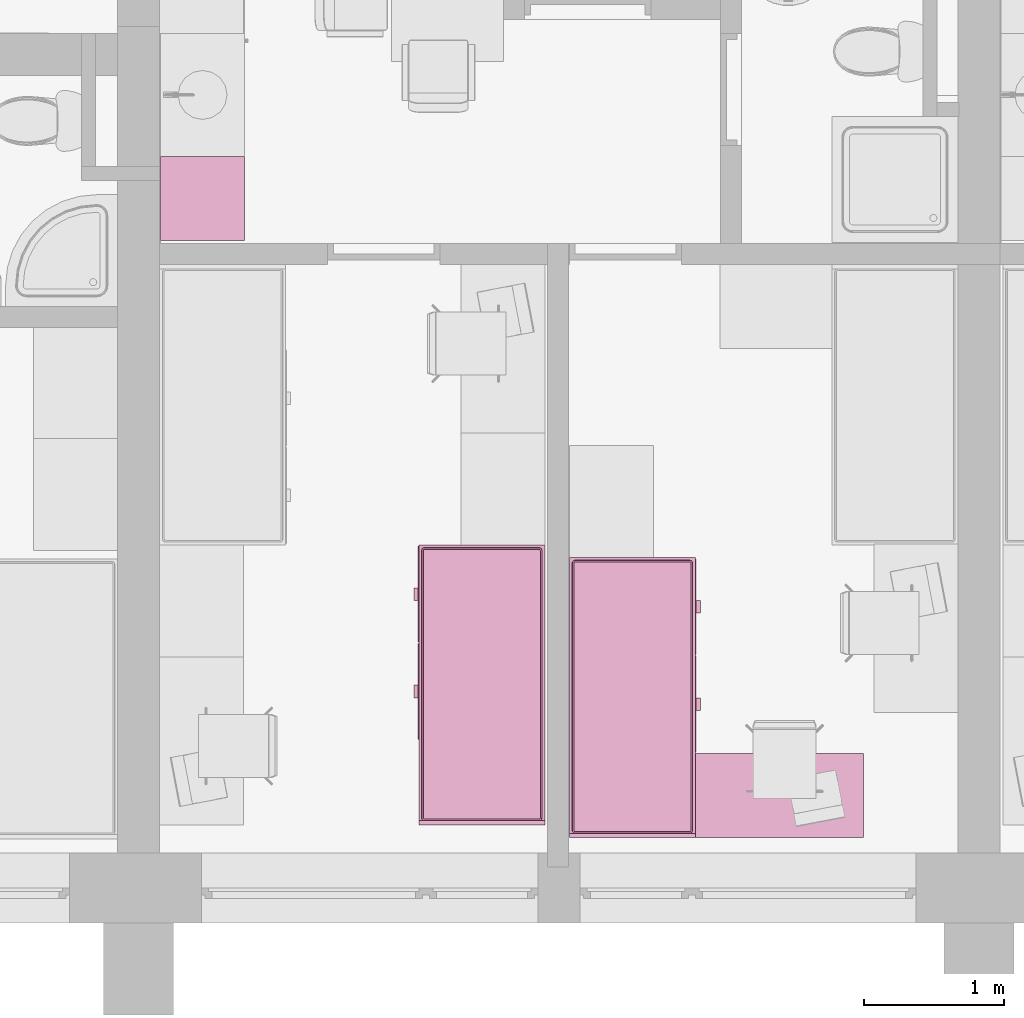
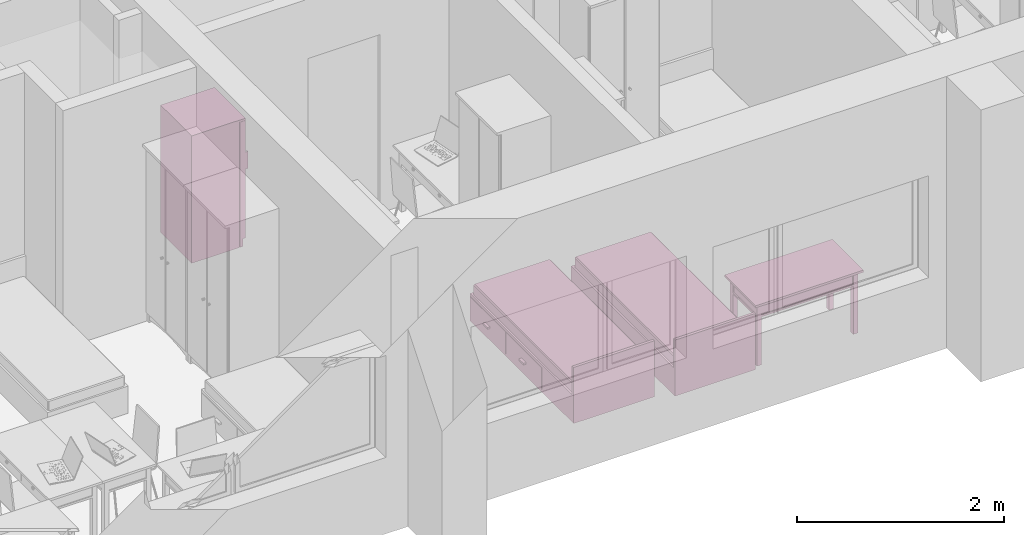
# One storey, part 58 of 165: 4 furnishings.
"""IFC2X3 building model written with IfcOpenShell, lengths in millimetres."""

from ifc_helpers import new_model, entity, si_unit, converted_unit, money_unit, direction, frame, origin_with_axes, place, context, subcontext, project, spatial, open_shell, faceted_brep, surface_model, source, transform, mapped, material, material_list, type_object, element, save


model = new_model("IFC2X3")

# Units and contexts
model_context = context("Model", 3, precision=1e-05, world=origin_with_axes(), true_north=direction((0.0, 1.0)))
body_context = subcontext(model_context, "Body", "Model", "MODEL_VIEW")
ifc_project = project(units=[si_unit("LENGTHUNIT", "METRE", prefix="MILLI"), si_unit("AREAUNIT", "SQUARE_METRE"), si_unit("VOLUMEUNIT", "CUBIC_METRE"), converted_unit("PLANEANGLEUNIT", "DEGREE", entity("IfcPlaneAngleMeasure", 0.0174532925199), si_unit("PLANEANGLEUNIT", "RADIAN"), dimensions=[0, 0, 0, 0, 0, 0, 0]), si_unit("SOLIDANGLEUNIT", "STERADIAN"), money_unit("USD"), converted_unit("TIMEUNIT", "Year", entity("IfcTimeMeasure", 31556926.0), si_unit("TIMEUNIT", "SECOND"), dimensions=[0, 0, 0, 0, 0, 0, 0]), si_unit("MASSUNIT", "GRAM"), si_unit("THERMODYNAMICTEMPERATUREUNIT", "DEGREE_CELSIUS"), si_unit("LUMINOUSINTENSITYUNIT", "LUMEN")], contexts=[model_context])

# Site, building, storey
site_placement = place(None, origin_with_axes())
site = spatial("IfcSite", under=ifc_project, at=site_placement, Name="Site", CompositionType="ELEMENT")
building_placement = place(site_placement, origin_with_axes())
building = spatial("IfcBuilding", under=site, at=building_placement, Name="Building", CompositionType="ELEMENT")
storey_placement = place(building_placement, frame((0.0, 0.0, 6300.0), z_axis=(0.0, 0.0, 1.0), x_axis=(1.0, 0.0, 0.0)))
storey = spatial("IfcBuildingStorey", under=building, at=storey_placement, Name="4KORRUS", CompositionType="ELEMENT", Elevation=6300.0)

# Furnishings
ifc_material = material(Name="Background")
ifc_material_list = material_list([ifc_material])
furnishing_element_type_1 = type_object("IfcFurnishingElementType", Name="Bed 19")
shared_shape_1 = source(origin_with_axes(), body_context, "Body", "Brep", [
    faceted_brep([(900.0, 1970.0, 0.0), (0.0, 1970.0, 0.0), (0.0, 2000.0, 0.0), (900.0, 2000.0, 0.0), (900.0, 1970.0, 660.0), (0.0, 1970.0, 660.0), (0.0, 2000.0, 660.0), (900.0, 2000.0, 660.0)], [[[0, 1, 2, 3]], [[1, 0, 4, 5]], [[2, 1, 5, 6]], [[3, 2, 6, 7]], [[0, 3, 7, 4]], [[5, 4, 7, 6]]]),
    faceted_brep([(900.0, 0.0, 0.0), (0.0, 0.0, 0.0), (0.0, 1970.0, 0.0), (900.0, 1970.0, 0.0), (900.0, 0.0, 320.0), (0.0, 0.0, 320.0), (0.0, 1970.0, 320.0), (900.0, 1970.0, 320.0)], [[[0, 1, 2, 3]], [[1, 0, 4, 5]], [[2, 1, 5, 6]], [[3, 2, 6, 7]], [[0, 3, 7, 4]], [[5, 4, 7, 6]]]),
    faceted_brep([(905.0, 10.0, 30.0), (900.0, 10.0, 30.0), (900.0, 695.0, 30.0), (905.0, 695.0, 30.0), (905.0, 10.0, 290.0), (900.0, 10.0, 290.0), (900.0, 695.0, 290.0), (905.0, 695.0, 290.0)], [[[0, 1, 2, 3]], [[1, 0, 4, 5]], [[2, 1, 5, 6]], [[3, 2, 6, 7]], [[0, 3, 7, 4]], [[5, 4, 7, 6]]]),
    faceted_brep([(935.0, 307.5, 150.0), (905.0, 307.5, 150.0), (905.0, 397.5, 150.0), (935.0, 397.5, 150.0), (935.0, 307.5, 170.0), (905.0, 307.5, 170.0), (905.0, 397.5, 170.0), (935.0, 397.5, 170.0)], [[[0, 1, 2, 3]], [[1, 0, 4, 5]], [[2, 1, 5, 6]], [[3, 2, 6, 7]], [[0, 3, 7, 4]], [[5, 4, 7, 6]]]),
    faceted_brep([(905.0, 705.0, 30.0), (900.0, 705.0, 30.0), (900.0, 1390.0, 30.0), (905.0, 1390.0, 30.0), (905.0, 705.0, 290.0), (900.0, 705.0, 290.0), (900.0, 1390.0, 290.0), (905.0, 1390.0, 290.0)], [[[0, 1, 2, 3]], [[1, 0, 4, 5]], [[2, 1, 5, 6]], [[3, 2, 6, 7]], [[0, 3, 7, 4]], [[5, 4, 7, 6]]]),
    faceted_brep([(935.0, 1002.5, 150.0), (905.0, 1002.5, 150.0), (905.0, 1092.5, 150.0), (935.0, 1092.5, 150.0), (935.0, 1002.5, 170.0), (905.0, 1002.5, 170.0), (905.0, 1092.5, 170.0), (935.0, 1092.5, 170.0)], [[[0, 1, 2, 3]], [[1, 0, 4, 5]], [[2, 1, 5, 6]], [[3, 2, 6, 7]], [[0, 3, 7, 4]], [[5, 4, 7, 6]]]),
    faceted_brep([(20.0, 40.0, 350.0), (20.0, 1950.0, 350.0), (21.522, 1957.654, 350.0), (25.858, 1964.142, 350.0), (32.346, 1968.478, 350.0), (40.0, 1970.0, 350.0), (860.0, 1970.0, 350.0), (867.654, 1968.478, 350.0), (874.142, 1964.142, 350.0), (878.478, 1957.654, 350.0), (880.0, 1950.0, 350.0), (880.0, 40.0, 350.0), (878.478, 32.346, 350.0), (874.142, 25.858, 350.0), (867.654, 21.522, 350.0), (860.0, 20.0, 350.0), (40.0, 20.0, 350.0), (32.346, 21.522, 350.0), (25.858, 25.858, 350.0), (21.522, 32.346, 350.0), (20.0, 40.0, 420.0), (20.0, 1950.0, 420.0), (21.522, 1957.654, 420.0), (25.858, 1964.142, 420.0), (32.346, 1968.478, 420.0), (40.0, 1970.0, 420.0), (860.0, 1970.0, 420.0), (867.654, 1968.478, 420.0), (874.142, 1964.142, 420.0), (878.478, 1957.654, 420.0), (880.0, 1950.0, 420.0), (880.0, 40.0, 420.0), (878.478, 32.346, 420.0), (874.142, 25.858, 420.0), (867.654, 21.522, 420.0), (860.0, 20.0, 420.0), (40.0, 20.0, 420.0), (32.346, 21.522, 420.0), (25.858, 25.858, 420.0), (21.522, 32.346, 420.0), (21.522, 40.15, 427.654), (21.522, 1949.85, 427.654), (22.956, 1957.06, 427.654), (26.955, 1963.045, 427.654), (32.94, 1967.044, 427.654), (40.15, 1968.478, 427.654), (859.85, 1968.478, 427.654), (867.06, 1967.044, 427.654), (873.045, 1963.045, 427.654), (877.044, 1957.06, 427.654), (878.478, 1949.85, 427.654), (878.478, 40.15, 427.654), (877.044, 32.94, 427.654), (873.045, 26.955, 427.654), (867.06, 22.956, 427.654), (859.85, 21.522, 427.654), (40.15, 21.522, 427.654), (32.94, 22.956, 427.654), (26.955, 26.955, 427.654), (22.956, 32.94, 427.654), (32.346, 41.216, 438.478), (32.346, 1948.784, 438.478), (33.152, 1952.836, 438.478), (34.759, 1955.241, 438.478), (37.164, 1956.848, 438.478), (41.216, 1957.654, 438.478), (858.784, 1957.654, 438.478), (862.836, 1956.848, 438.478), (865.241, 1955.241, 438.478), (866.848, 1952.836, 438.478), (867.654, 1948.784, 438.478), (867.654, 41.216, 438.478), (866.848, 37.164, 438.478), (865.241, 34.759, 438.478), (862.836, 33.152, 438.478), (858.784, 32.346, 438.478), (41.216, 32.346, 438.478), (37.164, 33.152, 438.478), (34.759, 34.759, 438.478), (33.152, 37.164, 438.478), (40.0, 41.97, 440.0), (40.0, 1948.03, 440.0), (40.327, 1949.673, 440.0), (40.0, 1950.0, 439.924), (41.97, 1950.0, 440.0), (858.03, 1950.0, 440.0), (859.673, 1949.673, 440.0), (860.0, 1950.0, 439.924), (860.0, 1948.03, 440.0), (860.0, 41.97, 440.0), (859.673, 40.327, 440.0), (860.0, 40.0, 439.924), (858.03, 40.0, 440.0), (41.97, 40.0, 440.0), (40.327, 40.327, 440.0), (40.0, 40.0, 439.924)], [[[0, 1, 2, 3, 4, 5, 6, 7, 8, 9, 10, 11, 12, 13, 14, 15, 16, 17, 18, 19]], [[1, 0, 20, 21]], [[2, 1, 21, 22]], [[3, 2, 22, 23]], [[4, 3, 23, 24]], [[5, 4, 24, 25]], [[6, 5, 25, 26]], [[7, 6, 26, 27]], [[8, 7, 27, 28]], [[9, 8, 28, 29]], [[10, 9, 29, 30]], [[11, 10, 30, 31]], [[12, 11, 31, 32]], [[13, 12, 32, 33]], [[14, 13, 33, 34]], [[15, 14, 34, 35]], [[16, 15, 35, 36]], [[17, 16, 36, 37]], [[18, 17, 37, 38]], [[19, 18, 38, 39]], [[0, 19, 39, 20]], [[21, 20, 40, 41]], [[22, 21, 41, 42]], [[23, 22, 42, 43]], [[24, 23, 43, 44]], [[25, 24, 44, 45]], [[26, 25, 45, 46]], [[27, 26, 46, 47]], [[28, 27, 47, 48]], [[29, 28, 48, 49]], [[30, 29, 49, 50]], [[31, 30, 50, 51]], [[32, 31, 51, 52]], [[33, 32, 52, 53]], [[34, 33, 53, 54]], [[35, 34, 54, 55]], [[36, 35, 55, 56]], [[37, 36, 56, 57]], [[38, 37, 57, 58]], [[39, 38, 58, 59]], [[20, 39, 59, 40]], [[41, 40, 60, 61]], [[42, 41, 61, 62]], [[43, 42, 62, 63]], [[44, 43, 63, 64]], [[45, 44, 64, 65]], [[46, 45, 65, 66]], [[47, 46, 66, 67]], [[48, 47, 67, 68]], [[49, 48, 68, 69]], [[50, 49, 69, 70]], [[51, 50, 70, 71]], [[52, 51, 71, 72]], [[53, 52, 72, 73]], [[54, 53, 73, 74]], [[55, 54, 74, 75]], [[56, 55, 75, 76]], [[57, 56, 76, 77]], [[58, 57, 77, 78]], [[59, 58, 78, 79]], [[40, 59, 79, 60]], [[61, 60, 80, 81]], [[62, 61, 81, 82, 83]], [[63, 62, 83]], [[64, 63, 83]], [[65, 64, 83, 82, 84]], [[66, 65, 84, 85]], [[67, 66, 85, 86, 87]], [[68, 67, 87]], [[69, 68, 87]], [[70, 69, 87, 86, 88]], [[71, 70, 88, 89]], [[72, 71, 89, 90, 91]], [[73, 72, 91]], [[74, 73, 91]], [[75, 74, 91, 90, 92]], [[76, 75, 92, 93]], [[77, 76, 93, 94, 95]], [[78, 77, 95]], [[79, 78, 95]], [[60, 79, 95, 94, 80]], [[81, 80, 94, 93, 92, 90, 89, 88, 86, 85, 84, 82]]]),
    faceted_brep([(20.0, 40.0, 350.0), (21.522, 32.346, 350.0), (25.858, 25.858, 350.0), (32.346, 21.522, 350.0), (40.0, 20.0, 350.0), (860.0, 20.0, 350.0), (867.654, 21.522, 350.0), (874.142, 25.858, 350.0), (878.478, 32.346, 350.0), (880.0, 40.0, 350.0), (880.0, 1950.0, 350.0), (878.478, 1957.654, 350.0), (874.142, 1964.142, 350.0), (867.654, 1968.478, 350.0), (860.0, 1970.0, 350.0), (40.0, 1970.0, 350.0), (32.346, 1968.478, 350.0), (25.858, 1964.142, 350.0), (21.522, 1957.654, 350.0), (20.0, 1950.0, 350.0), (20.0, 40.0, 320.0), (21.522, 32.346, 320.0), (25.858, 25.858, 320.0), (32.346, 21.522, 320.0), (40.0, 20.0, 320.0), (860.0, 20.0, 320.0), (867.654, 21.522, 320.0), (874.142, 25.858, 320.0), (878.478, 32.346, 320.0), (880.0, 40.0, 320.0), (880.0, 1950.0, 320.0), (878.478, 1957.654, 320.0), (874.142, 1964.142, 320.0), (867.654, 1968.478, 320.0), (860.0, 1970.0, 320.0), (40.0, 1970.0, 320.0), (32.346, 1968.478, 320.0), (25.858, 1964.142, 320.0), (21.522, 1957.654, 320.0), (20.0, 1950.0, 320.0)], [[[0, 1, 2, 3, 4, 5, 6, 7, 8, 9, 10, 11, 12, 13, 14, 15, 16, 17, 18, 19]], [[0, 20, 21, 1]], [[1, 21, 22, 2]], [[2, 22, 23, 3]], [[3, 23, 24, 4]], [[4, 24, 25, 5]], [[5, 25, 26, 6]], [[6, 26, 27, 7]], [[7, 27, 28, 8]], [[8, 28, 29, 9]], [[9, 29, 30, 10]], [[10, 30, 31, 11]], [[11, 31, 32, 12]], [[12, 32, 33, 13]], [[13, 33, 34, 14]], [[14, 34, 35, 15]], [[15, 35, 36, 16]], [[16, 36, 37, 17]], [[17, 37, 38, 18]], [[18, 38, 39, 19]], [[19, 39, 20, 0]], [[20, 39, 38, 37, 36, 35, 34, 33, 32, 31, 30, 29, 28, 27, 26, 25, 24, 23, 22, 21]]]),
])
furnishing_1_placement = place(storey_placement, frame((-45240.2967033, -17439.2398994, 0.0), z_axis=(0.0, 0.0, 1.0), x_axis=(-1.0, 0.0, 0.0)))
element("IfcFurnishingElement", 1, at=furnishing_1_placement, inside=storey, type_object=furnishing_element_type_1, material=ifc_material_list, Name="FU - 013", context=body_context, shape_type="MappedRepresentation", body=[
    mapped(shared_shape_1, transform((0.0, 0.0, 0.0))),
])
furnishing_element_type_2 = type_object("IfcFurnishingElementType", Name="Rectangular Table 01 19")
shared_shape_2 = source(origin_with_axes(), body_context, "Body", "Brep", [
    faceted_brep([(90.0, 40.0, 0.0), (40.0, 40.0, 0.0), (40.0, 90.0, 0.0), (90.0, 90.0, 0.0), (90.0, 40.0, 725.0), (40.0, 40.0, 725.0), (40.0, 90.0, 725.0), (90.0, 90.0, 725.0)], [[[0, 1, 2, 3]], [[1, 0, 4, 5]], [[2, 1, 5, 6]], [[3, 2, 6, 7]], [[0, 3, 7, 4]], [[5, 4, 7, 6]]]),
    faceted_brep([(1160.0, 40.0, 0.0), (1110.0, 40.0, 0.0), (1110.0, 90.0, 0.0), (1160.0, 90.0, 0.0), (1160.0, 40.0, 725.0), (1110.0, 40.0, 725.0), (1110.0, 90.0, 725.0), (1160.0, 90.0, 725.0)], [[[0, 1, 2, 3]], [[1, 0, 4, 5]], [[2, 1, 5, 6]], [[3, 2, 6, 7]], [[0, 3, 7, 4]], [[5, 4, 7, 6]]]),
    faceted_brep([(90.0, 510.0, 0.0), (40.0, 510.0, 0.0), (40.0, 560.0, 0.0), (90.0, 560.0, 0.0), (90.0, 510.0, 725.0), (40.0, 510.0, 725.0), (40.0, 560.0, 725.0), (90.0, 560.0, 725.0)], [[[0, 1, 2, 3]], [[1, 0, 4, 5]], [[2, 1, 5, 6]], [[3, 2, 6, 7]], [[0, 3, 7, 4]], [[5, 4, 7, 6]]]),
    faceted_brep([(1160.0, 510.0, 0.0), (1110.0, 510.0, 0.0), (1110.0, 560.0, 0.0), (1160.0, 560.0, 0.0), (1160.0, 510.0, 725.0), (1110.0, 510.0, 725.0), (1110.0, 560.0, 725.0), (1160.0, 560.0, 725.0)], [[[0, 1, 2, 3]], [[1, 0, 4, 5]], [[2, 1, 5, 6]], [[3, 2, 6, 7]], [[0, 3, 7, 4]], [[5, 4, 7, 6]]]),
    faceted_brep([(1160.0, 40.0, 565.0), (40.0, 40.0, 565.0), (40.0, 560.0, 565.0), (1160.0, 560.0, 565.0), (1160.0, 40.0, 585.0), (40.0, 40.0, 585.0), (40.0, 560.0, 585.0), (1160.0, 560.0, 585.0)], [[[0, 1, 2, 3]], [[1, 0, 4, 5]], [[2, 1, 5, 6]], [[3, 2, 6, 7]], [[0, 3, 7, 4]], [[5, 4, 7, 6]]]),
    faceted_brep([(1110.0, 52.5, 585.0), (90.0, 52.5, 585.0), (90.0, 77.5, 585.0), (1110.0, 77.5, 585.0), (1110.0, 52.5, 745.0), (90.0, 52.5, 745.0), (90.0, 77.5, 745.0), (1110.0, 77.5, 745.0)], [[[0, 1, 2, 3]], [[1, 0, 4, 5]], [[2, 1, 5, 6]], [[3, 2, 6, 7]], [[0, 3, 7, 4]], [[5, 4, 7, 6]]]),
    faceted_brep([(77.5, 90.0, 585.0), (52.5, 90.0, 585.0), (52.5, 510.0, 585.0), (77.5, 510.0, 585.0), (77.5, 90.0, 745.0), (52.5, 90.0, 745.0), (52.5, 510.0, 745.0), (77.5, 510.0, 745.0)], [[[0, 1, 2, 3]], [[1, 0, 4, 5]], [[2, 1, 5, 6]], [[3, 2, 6, 7]], [[0, 3, 7, 4]], [[5, 4, 7, 6]]]),
    faceted_brep([(90.0, 547.5, 585.0), (1110.0, 547.5, 585.0), (1110.0, 522.5, 585.0), (90.0, 522.5, 585.0), (90.0, 547.5, 745.0), (1110.0, 547.5, 745.0), (1110.0, 522.5, 745.0), (90.0, 522.5, 745.0)], [[[0, 1, 2, 3]], [[1, 0, 4, 5]], [[2, 1, 5, 6]], [[3, 2, 6, 7]], [[0, 3, 7, 4]], [[5, 4, 7, 6]]]),
    faceted_brep([(1122.5, 510.0, 585.0), (1147.5, 510.0, 585.0), (1147.5, 90.0, 585.0), (1122.5, 90.0, 585.0), (1122.5, 510.0, 745.0), (1147.5, 510.0, 745.0), (1147.5, 90.0, 745.0), (1122.5, 90.0, 745.0)], [[[0, 1, 2, 3]], [[1, 0, 4, 5]], [[2, 1, 5, 6]], [[3, 2, 6, 7]], [[0, 3, 7, 4]], [[5, 4, 7, 6]]]),
    faceted_brep([(597.5, 40.0, 585.0), (95.0, 40.0, 585.0), (95.0, 60.0, 585.0), (597.5, 60.0, 585.0), (597.5, 40.0, 745.0), (95.0, 40.0, 745.0), (95.0, 60.0, 745.0), (597.5, 60.0, 745.0)], [[[0, 1, 2, 3]], [[1, 0, 4, 5]], [[2, 1, 5, 6]], [[3, 2, 6, 7]], [[0, 3, 7, 4]], [[5, 4, 7, 6]]]),
    faceted_brep([(1105.0, 40.0, 585.0), (602.5, 40.0, 585.0), (602.5, 60.0, 585.0), (1105.0, 60.0, 585.0), (1105.0, 40.0, 745.0), (602.5, 40.0, 745.0), (602.5, 60.0, 745.0), (1105.0, 60.0, 745.0)], [[[0, 1, 2, 3]], [[1, 0, 4, 5]], [[2, 1, 5, 6]], [[3, 2, 6, 7]], [[0, 3, 7, 4]], [[5, 4, 7, 6]]]),
    faceted_brep([(354.91, 40.0, 660.0), (351.25, 40.0, 656.34), (346.25, 40.0, 655.0), (341.25, 40.0, 656.34), (337.59, 40.0, 660.0), (336.25, 40.0, 665.0), (337.59, 40.0, 670.0), (341.25, 40.0, 673.66), (346.25, 40.0, 675.0), (351.25, 40.0, 673.66), (354.91, 40.0, 670.0), (356.25, 40.0, 665.0), (354.91, 25.0, 660.0), (351.25, 25.0, 656.34), (346.25, 25.0, 655.0), (341.25, 25.0, 656.34), (337.59, 25.0, 660.0), (336.25, 25.0, 665.0), (337.59, 25.0, 670.0), (341.25, 25.0, 673.66), (346.25, 25.0, 675.0), (351.25, 25.0, 673.66), (354.91, 25.0, 670.0), (356.25, 25.0, 665.0)], [[[0, 1, 2, 3, 4, 5, 6, 7, 8, 9, 10, 11]], [[1, 0, 12, 13]], [[2, 1, 13, 14]], [[3, 2, 14, 15]], [[4, 3, 15, 16]], [[5, 4, 16, 17]], [[6, 5, 17, 18]], [[7, 6, 18, 19]], [[8, 7, 19, 20]], [[9, 8, 20, 21]], [[10, 9, 21, 22]], [[11, 10, 22, 23]], [[0, 11, 23, 12]], [[12, 23, 22, 21, 20, 19, 18, 17, 16, 15, 14, 13]]]),
    faceted_brep([(356.25, 12.01, 665.0), (346.25, 10.0, 665.0), (354.91, 12.01, 660.0), (354.91, 12.01, 670.0), (351.25, 12.01, 656.34), (363.571, 17.5, 665.0), (361.25, 17.5, 656.34), (351.25, 12.01, 673.66), (361.25, 17.5, 673.66), (346.25, 12.01, 655.0), (354.91, 17.5, 650.0), (366.25, 25.0, 665.0), (363.571, 25.0, 655.0), (346.25, 12.01, 675.0), (354.91, 17.5, 680.0), (363.571, 25.0, 675.0), (341.25, 12.01, 656.34), (346.25, 17.5, 647.679), (356.25, 25.0, 647.679), (346.25, 25.0, 645.0), (336.25, 25.0, 647.679), (328.929, 25.0, 655.0), (326.25, 25.0, 665.0), (328.929, 25.0, 675.0), (336.25, 25.0, 682.321), (346.25, 25.0, 685.0), (356.25, 25.0, 682.321), (341.25, 12.01, 673.66), (346.25, 17.5, 682.321), (337.59, 12.01, 660.0), (337.59, 17.5, 650.0), (331.25, 17.5, 656.34), (328.929, 17.5, 665.0), (331.25, 17.5, 673.66), (337.59, 17.5, 680.0), (337.59, 12.01, 670.0), (336.25, 12.01, 665.0)], [[[0, 1, 2]], [[3, 1, 0]], [[2, 1, 4]], [[5, 0, 2, 6]], [[7, 1, 3]], [[8, 3, 0, 5]], [[4, 1, 9]], [[6, 2, 4, 10]], [[11, 5, 6, 12]], [[13, 1, 7]], [[14, 7, 3, 8]], [[15, 8, 5, 11]], [[9, 1, 16]], [[10, 4, 9, 17]], [[12, 6, 10, 18]], [[12, 18, 19, 20, 21, 22, 23, 24, 25, 26, 15, 11]], [[27, 1, 13]], [[28, 13, 7, 14]], [[26, 14, 8, 15]], [[16, 1, 29]], [[17, 9, 16, 30]], [[18, 10, 17, 19]], [[19, 17, 30, 20]], [[20, 30, 31, 21]], [[21, 31, 32, 22]], [[22, 32, 33, 23]], [[23, 33, 34, 24]], [[24, 34, 28, 25]], [[25, 28, 14, 26]], [[35, 1, 27]], [[34, 27, 13, 28]], [[29, 1, 36]], [[30, 16, 29, 31]], [[31, 29, 36, 32]], [[32, 36, 35, 33]], [[33, 35, 27, 34]], [[36, 1, 35]]]),
    faceted_brep([(862.41, 40.0, 660.0), (858.75, 40.0, 656.34), (853.75, 40.0, 655.0), (848.75, 40.0, 656.34), (845.09, 40.0, 660.0), (843.75, 40.0, 665.0), (845.09, 40.0, 670.0), (848.75, 40.0, 673.66), (853.75, 40.0, 675.0), (858.75, 40.0, 673.66), (862.41, 40.0, 670.0), (863.75, 40.0, 665.0), (862.41, 25.0, 660.0), (858.75, 25.0, 656.34), (853.75, 25.0, 655.0), (848.75, 25.0, 656.34), (845.09, 25.0, 660.0), (843.75, 25.0, 665.0), (845.09, 25.0, 670.0), (848.75, 25.0, 673.66), (853.75, 25.0, 675.0), (858.75, 25.0, 673.66), (862.41, 25.0, 670.0), (863.75, 25.0, 665.0)], [[[0, 1, 2, 3, 4, 5, 6, 7, 8, 9, 10, 11]], [[1, 0, 12, 13]], [[2, 1, 13, 14]], [[3, 2, 14, 15]], [[4, 3, 15, 16]], [[5, 4, 16, 17]], [[6, 5, 17, 18]], [[7, 6, 18, 19]], [[8, 7, 19, 20]], [[9, 8, 20, 21]], [[10, 9, 21, 22]], [[11, 10, 22, 23]], [[0, 11, 23, 12]], [[12, 23, 22, 21, 20, 19, 18, 17, 16, 15, 14, 13]]]),
    faceted_brep([(863.75, 12.01, 665.0), (853.75, 10.0, 665.0), (862.41, 12.01, 660.0), (862.41, 12.01, 670.0), (858.75, 12.01, 656.34), (871.071, 17.5, 665.0), (868.75, 17.5, 656.34), (858.75, 12.01, 673.66), (868.75, 17.5, 673.66), (853.75, 12.01, 655.0), (862.41, 17.5, 650.0), (873.75, 25.0, 665.0), (871.071, 25.0, 655.0), (853.75, 12.01, 675.0), (862.41, 17.5, 680.0), (871.071, 25.0, 675.0), (848.75, 12.01, 656.34), (853.75, 17.5, 647.679), (863.75, 25.0, 647.679), (853.75, 25.0, 645.0), (843.75, 25.0, 647.679), (836.429, 25.0, 655.0), (833.75, 25.0, 665.0), (836.429, 25.0, 675.0), (843.75, 25.0, 682.321), (853.75, 25.0, 685.0), (863.75, 25.0, 682.321), (848.75, 12.01, 673.66), (853.75, 17.5, 682.321), (845.09, 12.01, 660.0), (845.09, 17.5, 650.0), (838.75, 17.5, 656.34), (836.429, 17.5, 665.0), (838.75, 17.5, 673.66), (845.09, 17.5, 680.0), (845.09, 12.01, 670.0), (843.75, 12.01, 665.0)], [[[0, 1, 2]], [[3, 1, 0]], [[2, 1, 4]], [[5, 0, 2, 6]], [[7, 1, 3]], [[8, 3, 0, 5]], [[4, 1, 9]], [[6, 2, 4, 10]], [[11, 5, 6, 12]], [[13, 1, 7]], [[14, 7, 3, 8]], [[15, 8, 5, 11]], [[9, 1, 16]], [[10, 4, 9, 17]], [[12, 6, 10, 18]], [[12, 18, 19, 20, 21, 22, 23, 24, 25, 26, 15, 11]], [[27, 1, 13]], [[28, 13, 7, 14]], [[26, 14, 8, 15]], [[16, 1, 29]], [[17, 9, 16, 30]], [[18, 10, 17, 19]], [[19, 17, 30, 20]], [[20, 30, 31, 21]], [[21, 31, 32, 22]], [[22, 32, 33, 23]], [[23, 33, 34, 24]], [[24, 34, 28, 25]], [[25, 28, 14, 26]], [[35, 1, 27]], [[34, 27, 13, 28]], [[29, 1, 36]], [[30, 16, 29, 31]], [[31, 29, 36, 32]], [[32, 36, 35, 33]], [[33, 35, 27, 34]], [[36, 1, 35]]]),
    faceted_brep([(1200.0, 0.0, 725.0), (0.0, 0.0, 725.0), (0.0, 600.0, 725.0), (1200.0, 600.0, 725.0), (1200.0, 0.0, 750.0), (0.0, 0.0, 750.0), (0.0, 600.0, 750.0), (1200.0, 600.0, 750.0)], [[[0, 1, 2, 3]], [[1, 0, 4, 5]], [[2, 1, 5, 6]], [[3, 2, 6, 7]], [[0, 3, 7, 4]], [[5, 4, 7, 6]]]),
])
furnishing_2_placement = place(storey_placement, frame((-42965.2967033, -18929.2398994, 0.0), z_axis=(0.0, 0.0, 1.0), x_axis=(-1.0, 0.0, 0.0)))
element("IfcFurnishingElement", 2, at=furnishing_2_placement, inside=storey, type_object=furnishing_element_type_2, material=ifc_material_list, Name="FU - 011", context=body_context, shape_type="MappedRepresentation", body=[
    mapped(shared_shape_2, transform((0.0, 0.0, 0.0))),
])
shared_shape_3 = source(origin_with_axes(), body_context, "Body", "Brep", [
    faceted_brep([(-900.0, 1970.0, 0.0), (-900.0, 2000.0, 0.0), (0.0, 2000.0, 0.0), (0.0, 1970.0, 0.0), (-900.0, 1970.0, 660.0), (-900.0, 2000.0, 660.0), (0.0, 2000.0, 660.0), (0.0, 1970.0, 660.0)], [[[0, 1, 2, 3]], [[0, 4, 5, 1]], [[1, 5, 6, 2]], [[2, 6, 7, 3]], [[3, 7, 4, 0]], [[7, 6, 5, 4]]]),
    faceted_brep([(-900.0, 0.0, 0.0), (-900.0, 1970.0, 0.0), (0.0, 1970.0, 0.0), (0.0, 0.0, 0.0), (-900.0, 0.0, 320.0), (-900.0, 1970.0, 320.0), (0.0, 1970.0, 320.0), (0.0, 0.0, 320.0)], [[[0, 1, 2, 3]], [[0, 4, 5, 1]], [[1, 5, 6, 2]], [[2, 6, 7, 3]], [[3, 7, 4, 0]], [[7, 6, 5, 4]]]),
    faceted_brep([(-905.0, 10.0, 30.0), (-905.0, 695.0, 30.0), (-900.0, 695.0, 30.0), (-900.0, 10.0, 30.0), (-905.0, 10.0, 290.0), (-905.0, 695.0, 290.0), (-900.0, 695.0, 290.0), (-900.0, 10.0, 290.0)], [[[0, 1, 2, 3]], [[0, 4, 5, 1]], [[1, 5, 6, 2]], [[2, 6, 7, 3]], [[3, 7, 4, 0]], [[7, 6, 5, 4]]]),
    faceted_brep([(-935.0, 307.5, 150.0), (-935.0, 397.5, 150.0), (-905.0, 397.5, 150.0), (-905.0, 307.5, 150.0), (-935.0, 307.5, 170.0), (-935.0, 397.5, 170.0), (-905.0, 397.5, 170.0), (-905.0, 307.5, 170.0)], [[[0, 1, 2, 3]], [[0, 4, 5, 1]], [[1, 5, 6, 2]], [[2, 6, 7, 3]], [[3, 7, 4, 0]], [[7, 6, 5, 4]]]),
    faceted_brep([(-905.0, 705.0, 30.0), (-905.0, 1390.0, 30.0), (-900.0, 1390.0, 30.0), (-900.0, 705.0, 30.0), (-905.0, 705.0, 290.0), (-905.0, 1390.0, 290.0), (-900.0, 1390.0, 290.0), (-900.0, 705.0, 290.0)], [[[0, 1, 2, 3]], [[0, 4, 5, 1]], [[1, 5, 6, 2]], [[2, 6, 7, 3]], [[3, 7, 4, 0]], [[7, 6, 5, 4]]]),
    faceted_brep([(-935.0, 1002.5, 150.0), (-935.0, 1092.5, 150.0), (-905.0, 1092.5, 150.0), (-905.0, 1002.5, 150.0), (-935.0, 1002.5, 170.0), (-935.0, 1092.5, 170.0), (-905.0, 1092.5, 170.0), (-905.0, 1002.5, 170.0)], [[[0, 1, 2, 3]], [[0, 4, 5, 1]], [[1, 5, 6, 2]], [[2, 6, 7, 3]], [[3, 7, 4, 0]], [[7, 6, 5, 4]]]),
    faceted_brep([(-20.0, 40.0, 350.0), (-21.522, 32.346, 350.0), (-25.858, 25.858, 350.0), (-32.346, 21.522, 350.0), (-40.0, 20.0, 350.0), (-860.0, 20.0, 350.0), (-867.654, 21.522, 350.0), (-874.142, 25.858, 350.0), (-878.478, 32.346, 350.0), (-880.0, 40.0, 350.0), (-880.0, 1950.0, 350.0), (-878.478, 1957.654, 350.0), (-874.142, 1964.142, 350.0), (-867.654, 1968.478, 350.0), (-860.0, 1970.0, 350.0), (-40.0, 1970.0, 350.0), (-32.346, 1968.478, 350.0), (-25.858, 1964.142, 350.0), (-21.522, 1957.654, 350.0), (-20.0, 1950.0, 350.0), (-20.0, 40.0, 420.0), (-21.522, 32.346, 420.0), (-25.858, 25.858, 420.0), (-32.346, 21.522, 420.0), (-40.0, 20.0, 420.0), (-860.0, 20.0, 420.0), (-867.654, 21.522, 420.0), (-874.142, 25.858, 420.0), (-878.478, 32.346, 420.0), (-880.0, 40.0, 420.0), (-880.0, 1950.0, 420.0), (-878.478, 1957.654, 420.0), (-874.142, 1964.142, 420.0), (-867.654, 1968.478, 420.0), (-860.0, 1970.0, 420.0), (-40.0, 1970.0, 420.0), (-32.346, 1968.478, 420.0), (-25.858, 1964.142, 420.0), (-21.522, 1957.654, 420.0), (-20.0, 1950.0, 420.0), (-21.522, 40.15, 427.654), (-22.956, 32.94, 427.654), (-26.955, 26.955, 427.654), (-32.94, 22.956, 427.654), (-40.15, 21.522, 427.654), (-859.85, 21.522, 427.654), (-867.06, 22.956, 427.654), (-873.045, 26.955, 427.654), (-877.044, 32.94, 427.654), (-878.478, 40.15, 427.654), (-878.478, 1949.85, 427.654), (-877.044, 1957.06, 427.654), (-873.045, 1963.045, 427.654), (-867.06, 1967.044, 427.654), (-859.85, 1968.478, 427.654), (-40.15, 1968.478, 427.654), (-32.94, 1967.044, 427.654), (-26.955, 1963.045, 427.654), (-22.956, 1957.06, 427.654), (-21.522, 1949.85, 427.654), (-32.346, 41.216, 438.478), (-33.152, 37.164, 438.478), (-34.759, 34.759, 438.478), (-37.164, 33.152, 438.478), (-41.216, 32.346, 438.478), (-858.784, 32.346, 438.478), (-862.836, 33.152, 438.478), (-865.241, 34.759, 438.478), (-866.848, 37.164, 438.478), (-867.654, 41.216, 438.478), (-867.654, 1948.784, 438.478), (-866.848, 1952.836, 438.478), (-865.241, 1955.241, 438.478), (-862.836, 1956.848, 438.478), (-858.784, 1957.654, 438.478), (-41.216, 1957.654, 438.478), (-37.164, 1956.848, 438.478), (-34.759, 1955.241, 438.478), (-33.152, 1952.836, 438.478), (-32.346, 1948.784, 438.478), (-40.0, 41.97, 440.0), (-40.327, 40.327, 440.0), (-40.0, 40.0, 439.924), (-41.97, 40.0, 440.0), (-858.03, 40.0, 440.0), (-859.673, 40.327, 440.0), (-860.0, 40.0, 439.924), (-860.0, 41.97, 440.0), (-860.0, 1948.03, 440.0), (-859.673, 1949.673, 440.0), (-860.0, 1950.0, 439.924), (-858.03, 1950.0, 440.0), (-41.97, 1950.0, 440.0), (-40.327, 1949.673, 440.0), (-40.0, 1950.0, 439.924), (-40.0, 1948.03, 440.0)], [[[0, 1, 2, 3, 4, 5, 6, 7, 8, 9, 10, 11, 12, 13, 14, 15, 16, 17, 18, 19]], [[0, 20, 21, 1]], [[1, 21, 22, 2]], [[2, 22, 23, 3]], [[3, 23, 24, 4]], [[4, 24, 25, 5]], [[5, 25, 26, 6]], [[6, 26, 27, 7]], [[7, 27, 28, 8]], [[8, 28, 29, 9]], [[9, 29, 30, 10]], [[10, 30, 31, 11]], [[11, 31, 32, 12]], [[12, 32, 33, 13]], [[13, 33, 34, 14]], [[14, 34, 35, 15]], [[15, 35, 36, 16]], [[16, 36, 37, 17]], [[17, 37, 38, 18]], [[18, 38, 39, 19]], [[19, 39, 20, 0]], [[20, 40, 41, 21]], [[21, 41, 42, 22]], [[22, 42, 43, 23]], [[23, 43, 44, 24]], [[24, 44, 45, 25]], [[25, 45, 46, 26]], [[26, 46, 47, 27]], [[27, 47, 48, 28]], [[28, 48, 49, 29]], [[29, 49, 50, 30]], [[30, 50, 51, 31]], [[31, 51, 52, 32]], [[32, 52, 53, 33]], [[33, 53, 54, 34]], [[34, 54, 55, 35]], [[35, 55, 56, 36]], [[36, 56, 57, 37]], [[37, 57, 58, 38]], [[38, 58, 59, 39]], [[39, 59, 40, 20]], [[40, 60, 61, 41]], [[41, 61, 62, 42]], [[42, 62, 63, 43]], [[43, 63, 64, 44]], [[44, 64, 65, 45]], [[45, 65, 66, 46]], [[46, 66, 67, 47]], [[47, 67, 68, 48]], [[48, 68, 69, 49]], [[49, 69, 70, 50]], [[50, 70, 71, 51]], [[51, 71, 72, 52]], [[52, 72, 73, 53]], [[53, 73, 74, 54]], [[54, 74, 75, 55]], [[55, 75, 76, 56]], [[56, 76, 77, 57]], [[57, 77, 78, 58]], [[58, 78, 79, 59]], [[59, 79, 60, 40]], [[60, 80, 81, 82, 61]], [[61, 82, 62]], [[62, 82, 63]], [[63, 82, 81, 83, 64]], [[64, 83, 84, 65]], [[65, 84, 85, 86, 66]], [[66, 86, 67]], [[67, 86, 68]], [[68, 86, 85, 87, 69]], [[69, 87, 88, 70]], [[70, 88, 89, 90, 71]], [[71, 90, 72]], [[72, 90, 73]], [[73, 90, 89, 91, 74]], [[74, 91, 92, 75]], [[75, 92, 93, 94, 76]], [[76, 94, 77]], [[77, 94, 78]], [[78, 94, 93, 95, 79]], [[79, 95, 80, 60]], [[95, 93, 92, 91, 89, 88, 87, 85, 84, 83, 81, 80]]]),
    faceted_brep([(-20.0, 40.0, 350.0), (-20.0, 1950.0, 350.0), (-21.522, 1957.654, 350.0), (-25.858, 1964.142, 350.0), (-32.346, 1968.478, 350.0), (-40.0, 1970.0, 350.0), (-860.0, 1970.0, 350.0), (-867.654, 1968.478, 350.0), (-874.142, 1964.142, 350.0), (-878.478, 1957.654, 350.0), (-880.0, 1950.0, 350.0), (-880.0, 40.0, 350.0), (-878.478, 32.346, 350.0), (-874.142, 25.858, 350.0), (-867.654, 21.522, 350.0), (-860.0, 20.0, 350.0), (-40.0, 20.0, 350.0), (-32.346, 21.522, 350.0), (-25.858, 25.858, 350.0), (-21.522, 32.346, 350.0), (-20.0, 40.0, 320.0), (-20.0, 1950.0, 320.0), (-21.522, 1957.654, 320.0), (-25.858, 1964.142, 320.0), (-32.346, 1968.478, 320.0), (-40.0, 1970.0, 320.0), (-860.0, 1970.0, 320.0), (-867.654, 1968.478, 320.0), (-874.142, 1964.142, 320.0), (-878.478, 1957.654, 320.0), (-880.0, 1950.0, 320.0), (-880.0, 40.0, 320.0), (-878.478, 32.346, 320.0), (-874.142, 25.858, 320.0), (-867.654, 21.522, 320.0), (-860.0, 20.0, 320.0), (-40.0, 20.0, 320.0), (-32.346, 21.522, 320.0), (-25.858, 25.858, 320.0), (-21.522, 32.346, 320.0)], [[[0, 1, 2, 3, 4, 5, 6, 7, 8, 9, 10, 11, 12, 13, 14, 15, 16, 17, 18, 19]], [[1, 0, 20, 21]], [[2, 1, 21, 22]], [[3, 2, 22, 23]], [[4, 3, 23, 24]], [[5, 4, 24, 25]], [[6, 5, 25, 26]], [[7, 6, 26, 27]], [[8, 7, 27, 28]], [[9, 8, 28, 29]], [[10, 9, 29, 30]], [[11, 10, 30, 31]], [[12, 11, 31, 32]], [[13, 12, 32, 33]], [[14, 13, 33, 34]], [[15, 14, 34, 35]], [[16, 15, 35, 36]], [[17, 16, 36, 37]], [[18, 17, 37, 38]], [[19, 18, 38, 39]], [[0, 19, 39, 20]], [[20, 39, 38, 37, 36, 35, 34, 33, 32, 31, 30, 29, 28, 27, 26, 25, 24, 23, 22, 21]]]),
])
furnishing_3_placement = place(storey_placement, frame((-45065.2967033, -17529.2398994, 0.0), z_axis=(0.0, 0.0, 1.0), x_axis=(-1.0, 0.0, 0.0)))
element("IfcFurnishingElement", 3, at=furnishing_3_placement, inside=storey, type_object=furnishing_element_type_1, material=ifc_material_list, Name="FU - 013", context=body_context, shape_type="MappedRepresentation", body=[
    mapped(shared_shape_3, transform((0.0, 0.0, 0.0))),
])
furnishing_element_type_3 = type_object("IfcFurnishingElementType", Name="Refrigerator 19")
shared_shape_4 = source(origin_with_axes(), body_context, "Body", "SurfaceModel", [
    faceted_brep([(0.0, 0.0, 1475.0), (0.0, 0.0, 1500.0), (-600.0, 0.0, 1500.0), (-600.0, 0.0, 1475.0), (0.0, 600.0, 1475.0), (0.0, 600.0, 1500.0), (-600.0, 600.0, 1500.0), (-600.0, 600.0, 1475.0)], [[[0, 1, 2, 3]], [[4, 5, 1, 0]], [[1, 5, 6, 2]], [[3, 2, 6, 7]], [[0, 3, 7, 4]], [[7, 6, 5, 4]]]),
    faceted_brep([(0.0, 65.0, 0.0), (0.0, 65.0, 1475.0), (-600.0, 65.0, 1475.0), (-600.0, 65.0, 0.0), (0.0, 600.0, 0.0), (0.0, 600.0, 1475.0), (-600.0, 600.0, 1475.0), (-600.0, 600.0, 0.0)], [[[0, 1, 2, 3]], [[4, 5, 1, 0]], [[1, 5, 6, 2]], [[3, 2, 6, 7]], [[0, 3, 7, 4]], [[7, 6, 5, 4]]]),
    faceted_brep([(0.0, 30.0, 0.0), (0.0, 30.0, 90.0), (-600.0, 30.0, 90.0), (-600.0, 30.0, 0.0), (0.0, 60.0, 0.0), (0.0, 60.0, 90.0), (-600.0, 60.0, 90.0), (-600.0, 60.0, 0.0)], [[[0, 1, 2, 3]], [[4, 5, 1, 0]], [[1, 5, 6, 2]], [[3, 2, 6, 7]], [[0, 3, 7, 4]], [[7, 6, 5, 4]]]),
    faceted_brep([(0.0, 60.0, 90.0), (0.0, 0.0, 90.0), (-600.0, 0.0, 90.0), (-600.0, 60.0, 90.0), (0.0, 60.0, 1474.5), (0.0, 0.0, 1474.5), (-600.0, 0.0, 1474.5), (-600.0, 60.0, 1474.5)], [[[0, 1, 2, 3]], [[4, 5, 1, 0]], [[1, 5, 6, 2]], [[3, 2, 6, 7]], [[0, 3, 7, 4]], [[7, 6, 5, 4]]]),
    surface_model("IfcShellBasedSurfaceModel", [(-600.0, -30.0, 900.0), (-600.0, 0.0, 900.0), (-600.0, 0.0, 1100.0), (-600.0, -30.0, 1100.0)], [open_shell([[[0, 1, 2, 3]]])]),
    surface_model("IfcShellBasedSurfaceModel", [(-600.0, -30.0, 900.0), (-570.0, -30.0, 900.0), (-570.0, -30.0, 1100.0), (-600.0, -30.0, 1100.0)], [open_shell([[[0, 1, 2, 3]]])]),
])
furnishing_4_placement = place(storey_placement, frame((-47384.008308, -14664.7705299, 0.0), z_axis=(0.0, 0.0, 1.0), x_axis=(0.0, 1.0, 0.0)))
element("IfcFurnishingElement", 4, at=furnishing_4_placement, inside=storey, type_object=furnishing_element_type_3, material=ifc_material_list, Name="FU - 007", context=body_context, shape_type="MappedRepresentation", body=[
    mapped(shared_shape_4, transform((0.0, 0.0, 0.0))),
])

save(model, "model.ifc")
